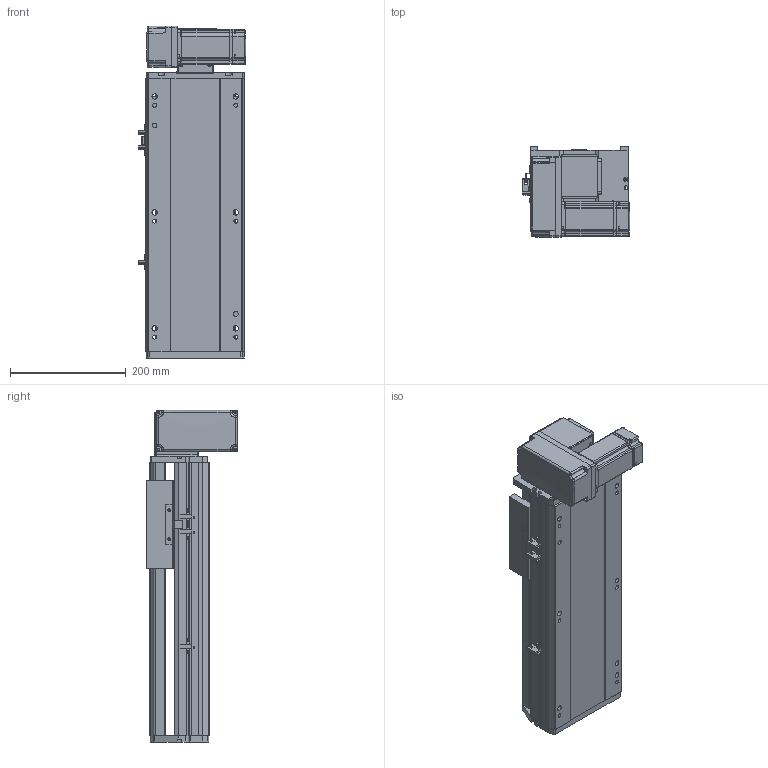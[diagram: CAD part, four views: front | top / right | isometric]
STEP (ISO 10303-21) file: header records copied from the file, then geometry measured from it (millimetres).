
FILE_DESCRIPTION (( 'STEP AP214' ), '1' );
FILE_NAME ('RTB17S-XX-200-LM-M40-C4.STEP', '2025-12-11T06:21:01', ( '' ), ( '' ), 'SwSTEP 2.0', 'SolidWorks 2018', '' );
FILE_SCHEMA (( 'AUTOMOTIVE_DESIGN' ));
Length unit declared in the file: millimetre
Products named in the file (14): RTB14-L-018P^RTB17S-LM-々湍釱蚾饜-400W_RTB17S-XX-XX-LM-M40-C4; RTB14-L-008-M20--萇儂啣^RTB17S-LM-々湍釱蚾饜-400W_RTB17S-XX-XX-LM-M40-C4; RTB14-L-017P^RTB17S-LM-々湍釱蚾饜-400W_RTB17S-XX-XX-LM-M40-C4; RTH13-BL-012覜茼え俋离^RTB17S-XX-XX-LM-M40-C4; RTB14-L-005P--轴承塑胶压盖^RTB17S-LM-皮带座装配-400W_RTB17S-XX-XX-LM-M40-C4; RTB17-R-011菁釱^RTB17S-XX-XX-LM-M40-C4; RTB17S-LM-々湍釱蚾饜-400W^RTB17S-XX-XX-LM-M40-C4; OMRON EE-SX672 传感器^RTB17S-XX-XX-LM-M40-C4; RTB17S-XX-200-LM-M40-C4; RMP17S-L-014-T20--々湍釱^RTB17S-LM-々湍釱蚾饜-400W_RTB17S-XX-XX-LM-M40-C4; RTB17S-L-001耜醱啣^RTB17S-XX-XX-LM-M40-C4; 400W侜督萇儂^RTB17S-XX-XX-LM-M40-C4; RTB17S-L-007奻裔^RTB17S-XX-XX-LM-M40-C4; RTB17S-L-004佪裝蹟譫蟀諉釱^RTB17S-XX-XX-LM-M40-C4
Assembly tree (16 placements, depth 3):
  RTB17S-XX-200-LM-M40-C4
    RTB17-R-011菁釱^RTB17S-XX-XX-LM-M40-C4
    RTB17S-L-007奻裔^RTB17S-XX-XX-LM-M40-C4
    OMRON EE-SX672 传感器^RTB17S-XX-XX-LM-M40-C4  x3
    RTH13-BL-012覜茼え俋离^RTB17S-XX-XX-LM-M40-C4
    RTB17S-L-001耜醱啣^RTB17S-XX-XX-LM-M40-C4
    400W侜督萇儂^RTB17S-XX-XX-LM-M40-C4
    RTB17S-L-004佪裝蹟譫蟀諉釱^RTB17S-XX-XX-LM-M40-C4
    RTB17S-LM-々湍釱蚾饜-400W^RTB17S-XX-XX-LM-M40-C4
      RMP17S-L-014-T20--々湍釱^RTB17S-LM-々湍釱蚾饜-400W_RTB17S-XX-XX-LM-M40-C4
      RTB14-L-005P--轴承塑胶压盖^RTB17S-LM-皮带座装配-400W_RTB17S-XX-XX-LM-M40-C4
      RTB14-L-008-M20--萇儂啣^RTB17S-LM-々湍釱蚾饜-400W_RTB17S-XX-XX-LM-M40-C4
      RTB14-L-017P^RTB17S-LM-々湍釱蚾饜-400W_RTB17S-XX-XX-LM-M40-C4  x2
      RTB14-L-018P^RTB17S-LM-々湍釱蚾饜-400W_RTB17S-XX-XX-LM-M40-C4
Bounding box: 186 x 156.5 x 572.5 mm (x, y, z)
Volume: 5853064.3 mm3; surface area: 785732.4 mm2
Topology: 15 solids, 15 shells, 2141 faces, 5871 edges, 3825 vertices
Faces by surface type: plane 1060, cylinder 633, bspline 301, cone 139, torus 8
Entity records: 59561 total; most frequent: CARTESIAN_POINT 16476, ORIENTED_EDGE 8586, DIRECTION 8036, EDGE_CURVE 4293, VERTEX_POINT 2813, AXIS2_PLACEMENT_3D 2743, LINE 2550, VECTOR 2550
